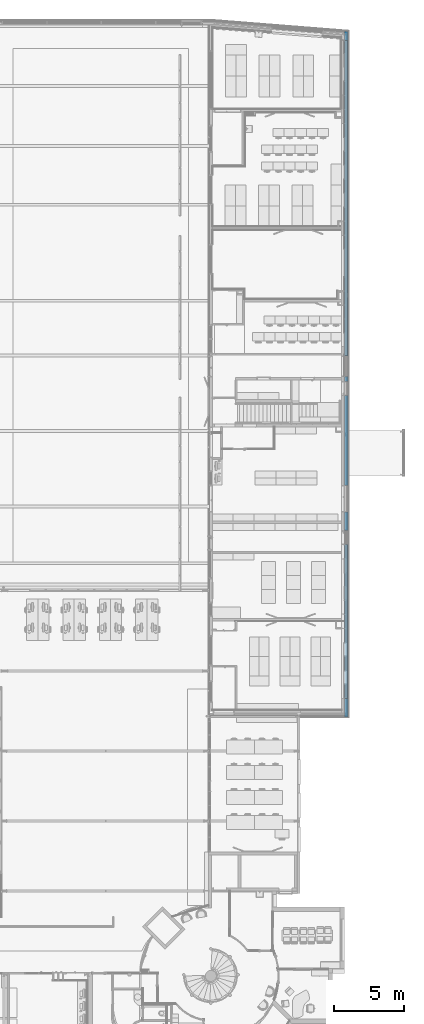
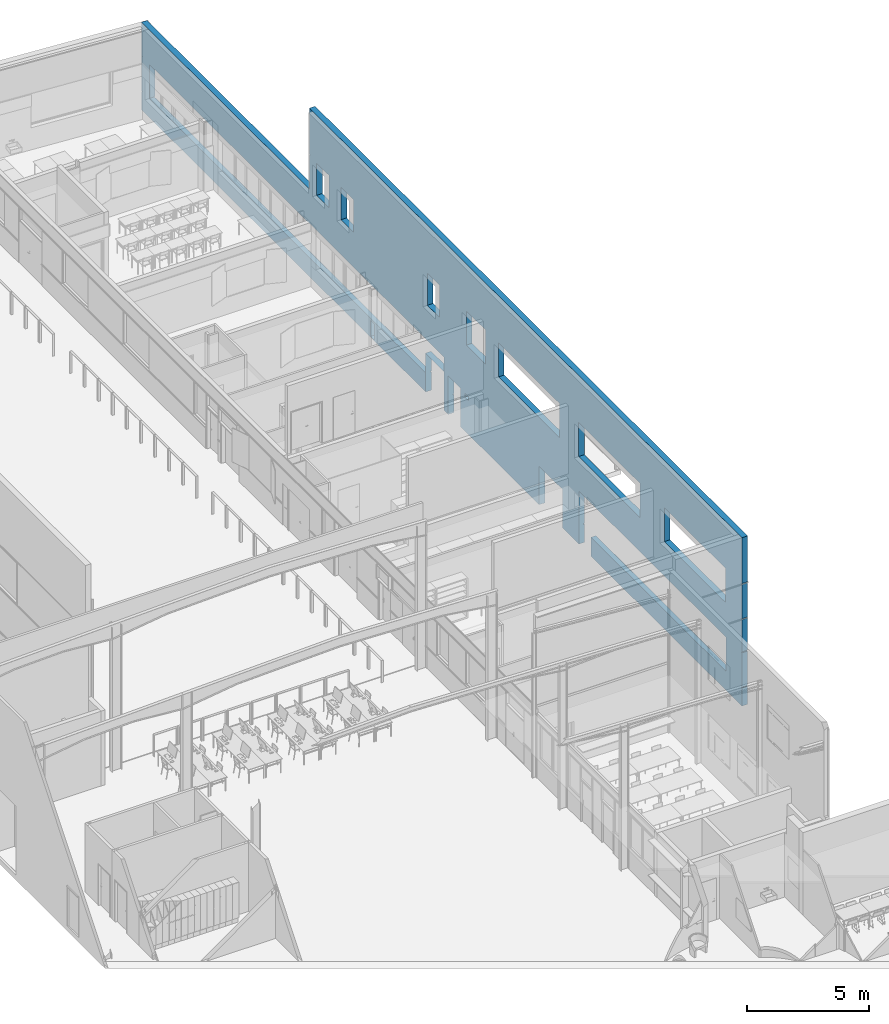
# One storey, part 103 of 137: 1 wall.
"""IFC2X3 building model written with IfcOpenShell, lengths in centimetres."""

from ifc_helpers import new_model, entity, si_unit, converted_unit, derived_unit, direction, frame, origin, place, context, subcontext, project, spatial, faceted_brep, material, material_list, type_object, element, save


model = new_model("IFC2X3")

# Units and contexts
model_context = context("Model", 3, precision=0.001, world=origin(), true_north=direction((6.12303176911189e-17, 1.0)))
body_context = subcontext(model_context, "Body", "Model", "MODEL_VIEW")
ifc_project = project(units=[si_unit("LENGTHUNIT", "METRE", prefix="CENTI"), si_unit("AREAUNIT", "SQUARE_METRE"), si_unit("VOLUMEUNIT", "CUBIC_METRE"), converted_unit("PLANEANGLEUNIT", "DEGREE", entity("IfcRatioMeasure", 0.0174532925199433), si_unit("PLANEANGLEUNIT", "RADIAN"), dimensions=[0, 0, 0, 0, 0, 0, 0]), si_unit("MASSUNIT", "GRAM", prefix="KILO"), si_unit("TIMEUNIT", "SECOND"), si_unit("FREQUENCYUNIT", "HERTZ"), si_unit("THERMODYNAMICTEMPERATUREUNIT", "DEGREE_CELSIUS"), derived_unit("THERMALTRANSMITTANCEUNIT", [(si_unit("MASSUNIT", "GRAM", prefix="KILO"), 1), (si_unit("THERMODYNAMICTEMPERATUREUNIT", "KELVIN"), -1), (si_unit("TIMEUNIT", "SECOND"), -3)]), derived_unit("VOLUMETRICFLOWRATEUNIT", [(si_unit("LENGTHUNIT", "METRE"), 3), (si_unit("TIMEUNIT", "SECOND"), -1)]), si_unit("ELECTRICCURRENTUNIT", "AMPERE"), si_unit("ELECTRICVOLTAGEUNIT", "VOLT"), si_unit("POWERUNIT", "WATT"), si_unit("FORCEUNIT", "NEWTON", prefix="KILO"), si_unit("ILLUMINANCEUNIT", "LUX"), si_unit("LUMINOUSFLUXUNIT", "LUMEN"), si_unit("LUMINOUSINTENSITYUNIT", "CANDELA"), derived_unit("USERDEFINED", [(si_unit("MASSUNIT", "GRAM", prefix="KILO"), -1), (si_unit("LENGTHUNIT", "METRE"), -2), (si_unit("TIMEUNIT", "SECOND"), 3), (si_unit("LUMINOUSFLUXUNIT", "LUMEN"), 1)]), derived_unit("LINEARVELOCITYUNIT", [(si_unit("LENGTHUNIT", "METRE"), 1), (si_unit("TIMEUNIT", "SECOND"), -1)]), si_unit("PRESSUREUNIT", "PASCAL"), derived_unit("USERDEFINED", [(si_unit("LENGTHUNIT", "METRE"), -2), (si_unit("MASSUNIT", "GRAM", prefix="KILO"), 1), (si_unit("TIMEUNIT", "SECOND"), -2)])], contexts=[model_context])

# Site, building, storey
site_placement = place(None, frame((8.62739174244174, -249.285249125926, 0.0)))
site = spatial("IfcSite", under=ifc_project, at=site_placement, Name="Default", CompositionType="ELEMENT")
building_placement = place(site_placement, origin())
building = spatial("IfcBuilding", under=site, at=building_placement, CompositionType="ELEMENT")
storey_placement = place(building_placement, origin())
storey = spatial("IfcBuildingStorey", under=building, at=storey_placement, Name="RDC", CompositionType="ELEMENT", Elevation=-8.82465566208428e-11)

# Wall
ifc_material_1 = material(Name="Tôle/Doublage(PROJET)")
ifc_material_2 = material(Name="Laine minérale")
ifc_material_list = material_list([ifc_material_1, ifc_material_2])
wall_type = type_object("IfcWallType", Name="Mur de base:MET PROJET 4 + ISO 23", PredefinedType="NOTDEFINED")
wall_placement = place(storey_placement, frame((4012.40482781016, 2607.98020806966, 15.0), z_axis=(0.0, 0.0, 1.0), x_axis=(0.0, 1.0, 0.0)))
element("IfcWall", 1, at=wall_placement, inside=storey, type_object=wall_type, material=ifc_material_list, Name="Mur de base:MET PROJET 4 + ISO 23", ObjectType="Mur de base:MET PROJET 4 + ISO 23", context=body_context, shape_type="Brep", body=[
    faceted_brep([(0.0, -13.4999999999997, 270.0), (4905.23085879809, -13.4999999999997, 270.0), (4905.23085879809, -13.4999999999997, 435.899999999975), (4905.23085879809, -13.4999999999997, 436.0), (4868.69741468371, -13.4999999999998, 436.0), (3534.0, -13.4999999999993, 436.0), (3534.0, -13.4999999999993, 606.0), (2250.0, -13.4999999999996, 606.0), (2250.0, -13.4999999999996, 436.0), (2095.0, -13.4999999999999, 436.0), (2095.0, -13.4999999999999, 606.0), (1988.60249267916, -13.5, 606.0), (1988.60249267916, -13.5, 436.0), (1488.60249267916, -13.4999999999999, 436.0), (1488.60249267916, -13.4999999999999, 606.0), (1333.70498529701, -13.4999999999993, 606.0), (1333.70498529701, -13.4999999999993, 436.0), (833.70498529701, -13.5000000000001, 436.0), (833.704985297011, -13.5000000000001, 606.0), (633.70498529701, -13.4999999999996, 606.0), (633.70498529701, -13.4999999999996, 436.0), (133.704985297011, -13.4999999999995, 436.0), (133.704985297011, -13.4999999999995, 606.0), (0.0, -13.4999999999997, 606.0), (0.0, -13.4999999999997, 436.0), (4.0, -13.4999999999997, 436.0), (4.0, -13.4999999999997, 431.0), (0.0, -13.4999999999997, 431.0), (3475.0117757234, -13.4999999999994, 601.011775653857), (3475.0117757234, -13.4999999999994, 440.011775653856), (3375.0117757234, -13.4999999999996, 440.011775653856), (3375.0117757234, -13.4999999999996, 601.011775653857), (2570.0, -13.5, 601.511775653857), (2570.0, -13.5, 440.511775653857), (2470.0, -13.5000000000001, 440.511775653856), (2470.0, -13.5000000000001, 601.511775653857), (3275.0117757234, -13.4999999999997, 601.011775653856), (3275.0117757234, -13.4999999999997, 440.011775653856), (3175.0117757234, -13.4999999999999, 440.011775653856), (3175.0117757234, -13.4999999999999, 601.011775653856), (4903.35329153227, 13.5000000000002, 270.0), (4903.35329153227, 13.5000000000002, 265.0), (4907.3657765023, 13.5000000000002, 265.0), (4907.3657765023, 13.5000000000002, 95.0), (4903.35329153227, 13.5000000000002, 95.0), (4903.35329153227, 13.5000000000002, 90.0), (4907.36577650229, 13.5000000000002, 90.0), (4907.36577650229, 13.5000000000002, 0.0), (4880.28150295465, 13.5000000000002, 0.0), (2584.0, 13.5, 0.0), (2584.0, 13.5, 192.0), (2435.0, 13.5000000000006, 192.0), (2435.0, 13.5000000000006, 0.0), (2399.0, 13.5000000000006, 0.0), (2399.0, 13.5000000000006, 192.499999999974), (2299.0, 13.5000000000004, 192.499999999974), (2299.0, 13.5000000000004, 0.0), (1656.20498529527, 13.5000000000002, 0.0), (1656.20498529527, 13.5000000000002, 192.0), (1467.20498529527, 13.4999999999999, 192.0), (1467.20498529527, 13.4999999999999, 0.0), (1332.204985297, 13.5000000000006, 0.0), (1332.204985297, 13.5000000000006, 192.499999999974), (1331.20498529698, 13.5000000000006, 192.499999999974), (1331.20498529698, 13.5000000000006, 265.0), (131.204985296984, 13.5000000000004, 265.0), (131.204985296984, 13.5000000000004, 95.0), (1232.204985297, 13.5000000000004, 95.0), (1232.204985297, 13.5000000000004, 0.0), (0.0, 13.5000000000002, 0.0), (0.0, 13.5000000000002, 0.0881867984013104), (0.0, 13.5000000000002, 90.0), (4.0, 13.5000000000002, 90.0), (4.0, 13.5000000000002, 95.0), (0.0, 13.5000000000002, 95.0), (0.0, 13.5000000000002, 265.0), (4.0, 13.5000000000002, 265.0), (4.0, 13.5000000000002, 270.0), (0.0, 13.5000000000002, 270.0), (0.0, 13.5000000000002, 431.0), (4.0, 13.5000000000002, 431.0), (4.0, 13.5000000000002, 436.0), (0.0, 13.5000000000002, 436.0), (0.0, 13.5000000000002, 606.0), (4.0, 13.5000000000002, 606.0), (4.0, 13.5000000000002, 611.0), (0.0, 13.5000000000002, 611.0), (0.0, 13.5000000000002, 839.900000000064), (27.0, 13.5000000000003, 839.900000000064), (58.9, 13.5000000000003, 839.900000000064), (58.8999999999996, 13.5000000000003, 835.100000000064), (57.5000000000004, 13.5000000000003, 835.100000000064), (57.4999999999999, 13.5000000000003, 835.0), (59.0, 13.5000000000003, 835.0), (59.0, 13.5000000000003, 840.0), (3475.0, 13.5000000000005, 840.0), (3475.0, 13.5000000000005, 835.0), (3476.50000006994, 13.5000000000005, 835.0), (3476.50000006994, 13.5000000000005, 835.100000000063), (3475.10000006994, 13.5000000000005, 835.100000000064), (3475.10000006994, 13.5000000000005, 839.900000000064), (3507.0, 13.5000000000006, 839.900000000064), (3534.0, 13.5000000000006, 839.900000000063), (3534.0, 13.5000000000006, 611.0), (3530.0, 13.5000000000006, 611.0), (3530.0, 13.5000000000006, 606.0), (3534.0, 13.5000000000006, 606.0), (3534.0, 13.5000000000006, 436.0), (4848.18162319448, 13.5000000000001, 436.0), (4880.30717049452, 13.5000000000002, 436.0), (4907.3657765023, 13.5000000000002, 436.0), (4907.3657765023, 13.5000000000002, 435.899999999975), (4907.3657765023, 13.5000000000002, 270.0), (4841.40916101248, 13.5000000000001, 95.0), (4841.40916101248, 13.5000000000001, 265.0), (2434.0, 13.5000000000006, 265.0), (2434.0, 13.5000000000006, 193.0), (2585.0, 13.5, 193.0), (2585.0, 13.5, 95.0), (2250.0, 13.5000000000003, 436.0), (2250.0, 13.5000000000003, 606.0), (2095.0, 13.5000000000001, 606.0), (2095.0, 13.5000000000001, 436.0), (1988.60249267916, 13.4999999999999, 436.0), (1988.60249267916, 13.4999999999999, 606.0), (1488.60249267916, 13.5, 606.0), (1488.60249267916, 13.5, 436.0), (1333.70498529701, 13.5000000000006, 436.0), (1333.70498529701, 13.5000000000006, 606.0), (833.704985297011, 13.4999999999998, 606.0), (833.704985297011, 13.4999999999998, 436.0), (633.70498529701, 13.5000000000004, 436.0), (633.70498529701, 13.5000000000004, 606.0), (133.704985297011, 13.5000000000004, 606.0), (133.704985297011, 13.5000000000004, 436.0), (2263.48822441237, 13.5000000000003, 168.988224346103), (2263.48822441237, 13.5000000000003, 188.988224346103), (2232.51572422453, 13.5000000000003, 188.988224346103), (2232.51572422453, 13.5000000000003, 168.988224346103), (3475.0117757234, 13.5000000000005, 440.011775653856), (3475.0117757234, 13.5000000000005, 601.011775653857), (3375.0117757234, 13.5000000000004, 601.011775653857), (3375.0117757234, 13.5000000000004, 440.011775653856), (3033.0, 13.4999999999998, 4.84175341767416), (3033.0, 13.4999999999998, 85.2074270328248), (3002.0, 13.5000000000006, 85.2074270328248), (3002.0, 13.5000000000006, 4.84175341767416), (2570.0, 13.5, 440.511775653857), (2570.0, 13.5, 601.511775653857), (2470.0, 13.4999999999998, 601.511775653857), (2470.0, 13.4999999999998, 440.511775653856), (3275.0117757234, 13.5000000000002, 440.011775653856), (3275.0117757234, 13.5000000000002, 601.011775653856), (3175.0117757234, 13.5000000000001, 601.011775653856), (3175.0117757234, 13.5000000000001, 440.011775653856), (3475.0, -13.4999999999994, 840.0), (59.0, -13.4999999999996, 840.0), (1467.20498529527, -13.5, 0.0), (1332.204985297, -13.4999999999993, 0.0), (4.0, -9.49999999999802, 611.0), (4.0, -9.49999999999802, 606.0), (133.704985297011, -9.49999999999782, 606.0), (633.70498529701, -9.49999999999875, 606.0), (833.704985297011, -9.49999999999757, 606.0), (1333.70498529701, -9.49999999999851, 606.0), (1488.60249267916, -9.49999999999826, 606.0), (1988.60249267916, -9.49999999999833, 606.0), (2095.0, -9.49999999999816, 606.0), (2250.0, -9.49999999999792, 606.0), (3530.0, -9.49999999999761, 606.0), (3530.0, -9.49999999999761, 611.0), (4.0, -9.49999999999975, 270.0), (4.0, -9.49999999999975, 265.0), (131.204985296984, -9.49999999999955, 265.0), (1331.20498529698, -9.49999999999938, 265.0), (2434.0, -9.49999999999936, 265.0), (4841.40916101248, -9.49999999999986, 265.0), (4901.5346579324, -9.49999999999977, 265.0), (4901.5346579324, -9.49999999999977, 270.0), (1232.204985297, -9.49999999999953, 95.0), (131.204985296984, -9.49999999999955, 95.0), (4.0, -9.49999999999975, 95.0), (4.0, -9.49999999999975, 90.0), (1232.204985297, -9.49999999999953, 90.0), (1232.204985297, -13.4999999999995, 90.0), (0.0, -13.4999999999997, 90.0), (131.204985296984, -13.4999999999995, 95.0), (0.0, -13.4999999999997, 95.0), (4901.5346579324, -9.49999999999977, 95.0), (4901.5346579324, -9.49999999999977, 90.0), (0.0, -13.4999999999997, 265.0), (131.204985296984, -13.4999999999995, 265.0), (3534.0, -13.4999999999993, 611.0), (0.0, -13.4999999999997, 611.0), (4841.40916101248, -13.4999999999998, 95.0), (4841.40916101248, -13.4999999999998, 265.0), (4841.40916101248, -9.49999999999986, 95.0), (2434.0, -13.4999999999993, 193.0), (2434.0, -13.4999999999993, 265.0), (2585.0, -13.4999999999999, 193.0), (2585.0, -13.4999999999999, 95.0), (2585.0, -9.49999999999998, 95.0), (1331.20498529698, -13.4999999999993, 192.499999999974), (1331.20498529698, -13.4999999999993, 265.0), (2435.0, -13.4999999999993, 192.0), (2435.0, -13.4999999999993, 95.0), (2435.0, -9.49999999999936, 95.0), (2435.0, -9.49999999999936, 90.0), (2435.0, -13.4999999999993, 90.0), (2435.0, -13.4999999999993, 0.0), (2584.0, -13.4999999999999, 192.0), (2584.0, -13.4999999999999, 0.0), (2584.0, -13.4999999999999, 90.0), (2584.0, -9.49999999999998, 90.0), (2584.0, -9.49999999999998, 95.0), (2584.0, -13.4999999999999, 95.0), (2399.0, -13.4999999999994, 192.499999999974), (2399.0, -13.4999999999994, 0.0), (2399.0, -13.4999999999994, 90.0), (2399.0, -9.49999999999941, 90.0), (2399.0, -9.49999999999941, 95.0), (2399.0, -13.4999999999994, 95.0), (2299.0, -13.4999999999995, 192.499999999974), (2299.0, -13.4999999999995, 95.0), (2299.0, -9.49999999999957, 95.0), (2299.0, -9.49999999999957, 90.0), (2299.0, -13.4999999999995, 90.0), (2299.0, -13.4999999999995, 0.0), (1656.20498529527, -13.4999999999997, 192.0), (1656.20498529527, -13.4999999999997, 0.0), (1656.20498529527, -13.4999999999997, 90.0), (1656.20498529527, -9.49999999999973, 90.0), (1656.20498529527, -9.49999999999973, 95.0), (1656.20498529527, -13.4999999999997, 95.0), (1467.20498529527, -13.5, 192.0), (1467.20498529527, -13.5, 95.0), (1467.20498529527, -9.50000000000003, 95.0), (1467.20498529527, -9.50000000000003, 90.0), (1467.20498529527, -13.4999999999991, 90.0), (1232.204985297, -13.4999999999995, 0.0), (1332.204985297, -13.4999999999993, 192.499999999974), (1332.204985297, -13.4999999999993, 90.0), (1332.204985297, -9.49999999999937, 90.0), (1332.204985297, -9.49999999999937, 95.0), (1332.204985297, -13.4999999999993, 95.0), (2263.48822441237, -13.4999999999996, 168.988224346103), (2263.48822441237, -13.4999999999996, 188.988224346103), (2232.51572422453, -13.4999999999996, 168.988224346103), (2232.51572422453, -13.4999999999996, 188.988224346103), (4905.23085879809, -13.4999999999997, 90.0), (3033.0, -13.5000000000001, 4.84175341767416), (3033.0, -13.5000000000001, 85.2074270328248), (3002.0, -13.4999999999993, 4.84175341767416), (3002.0, -13.4999999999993, 85.2074270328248), (4905.23085879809, -13.4999999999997, 265.0), (4905.23085879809, -13.4999999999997, 95.0), (3475.0, -13.5000000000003, 835.0), (3476.50000006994, -13.4999999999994, 835.0), (3476.50000006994, -13.4999999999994, 835.100000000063), (3475.10000006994, -13.4999999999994, 835.100000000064), (3475.10000006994, -13.4999999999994, 839.900000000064), (3534.0, -13.4999999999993, 839.900000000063), (59.0, -13.5000000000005, 835.0), (57.4999999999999, -13.5000000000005, 835.0), (57.4999999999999, -13.5000000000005, 835.100000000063), (58.9, -13.5000000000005, 835.100000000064), (58.8999999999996, -13.5000000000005, 839.900000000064), (0.0, -13.4999999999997, 839.900000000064), (4905.23085879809, -13.4999999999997, 0.0), (0.0, -13.4999999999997, 0.0)], [[[0, 1, 2, 3, 4, 5, 6, 7, 8, 9, 10, 11, 12, 13, 14, 15, 16, 17, 18, 19, 20, 21, 22, 23, 24, 25, 26, 27], [28, 29, 30, 31], [32, 33, 34, 35], [36, 37, 38, 39]], [[40, 41, 42, 43, 44, 45, 46, 47, 48, 49, 50, 51, 52, 53, 54, 55, 56, 57, 58, 59, 60, 61, 62, 63, 64, 65, 66, 67, 68, 69, 70, 71, 72, 73, 74, 75, 76, 77, 78, 79, 80, 81, 82, 83, 84, 85, 86, 87, 88, 89, 90, 91, 92, 93, 94, 95, 96, 97, 98, 99, 100, 101, 102, 103, 104, 105, 106, 107, 108, 109, 110, 111, 112], [113, 114, 115, 116, 117, 118], [119, 120, 121, 122], [123, 124, 125, 126], [127, 128, 129, 130], [131, 132, 133, 134], [135, 136, 137, 138], [139, 140, 141, 142], [143, 144, 145, 146], [147, 148, 149, 150], [151, 152, 153, 154]], [[155, 95, 94, 156]], [[107, 5, 4, 3, 110, 109, 108]], [[60, 157, 158, 61]], [[159, 160, 161, 162, 163, 164, 165, 166, 167, 168, 169, 170]], [[171, 172, 173, 174, 175, 176, 177, 178]], [[179, 180, 181, 182, 183]], [[184, 183, 182, 72, 71, 185]], [[180, 186, 187, 74, 73, 181]], [[178, 177, 41, 40]], [[188, 189, 45, 44]], [[170, 169, 105, 104]], [[172, 171, 77, 76]], [[172, 76, 75, 190, 191, 173]], [[171, 178, 40, 112, 1, 0, 78, 77]], [[160, 159, 85, 84]], [[160, 84, 83, 23, 22, 161]], [[159, 170, 104, 103, 192, 193, 86, 85]], [[194, 195, 176, 114, 113, 196]], [[115, 114, 176, 175]], [[197, 116, 115, 175, 198]], [[116, 197, 199, 117]], [[117, 199, 200, 201, 118]], [[113, 118, 201, 196]], [[174, 64, 63, 202, 203]], [[65, 64, 174, 173]], [[191, 186, 180, 66, 65, 173]], [[66, 180, 179, 67]], [[119, 8, 7, 168, 120]], [[121, 120, 168, 167]], [[9, 122, 121, 167, 10]], [[8, 119, 122, 9]], [[123, 12, 11, 166, 124]], [[125, 124, 166, 165]], [[13, 126, 125, 165, 14]], [[12, 123, 126, 13]], [[127, 16, 15, 164, 128]], [[129, 128, 164, 163]], [[17, 130, 129, 163, 18]], [[16, 127, 130, 17]], [[131, 20, 19, 162, 132]], [[133, 132, 162, 161]], [[21, 134, 133, 161, 22]], [[20, 131, 134, 21]], [[51, 204, 205, 206, 207, 208, 209, 52]], [[204, 51, 50, 210]], [[210, 50, 49, 211, 212, 213, 214, 215]], [[216, 54, 53, 217, 218, 219, 220, 221]], [[54, 216, 222, 55]], [[55, 222, 223, 224, 225, 226, 227, 56]], [[228, 58, 57, 229, 230, 231, 232, 233]], [[58, 228, 234, 59]], [[59, 234, 235, 236, 237, 238, 157, 60]], [[68, 67, 179, 183, 184, 239]], [[62, 240, 202, 63]], [[240, 62, 61, 158, 241, 242, 243, 244]], [[245, 246, 136, 135]], [[247, 245, 135, 138]], [[248, 247, 138, 137]], [[246, 248, 137, 136]], [[189, 188, 196, 201, 214, 213]], [[45, 189, 213, 212, 249, 46]], [[214, 201, 200, 215]], [[206, 220, 219, 207]], [[207, 219, 218, 208]], [[220, 206, 205, 221]], [[224, 232, 231, 225]], [[225, 231, 230, 226]], [[232, 224, 223, 233]], [[236, 243, 242, 237]], [[237, 242, 241, 238]], [[243, 236, 235, 244]], [[190, 75, 74, 187]], [[181, 73, 72, 182]], [[29, 28, 140, 139]], [[30, 29, 139, 142]], [[31, 30, 142, 141]], [[28, 31, 141, 140]], [[250, 251, 144, 143]], [[252, 250, 143, 146]], [[253, 252, 146, 145]], [[251, 253, 145, 144]], [[5, 107, 106, 6]], [[33, 32, 148, 147]], [[34, 33, 147, 150]], [[35, 34, 150, 149]], [[32, 35, 149, 148]], [[254, 255, 43, 42]], [[81, 25, 24, 82]], [[26, 80, 79, 27]], [[25, 81, 80, 26]], [[37, 36, 152, 151]], [[38, 37, 151, 154]], [[39, 38, 154, 153]], [[36, 39, 153, 152]], [[96, 256, 257, 97]], [[256, 96, 95, 155]], [[97, 257, 258, 98]], [[98, 258, 259, 99]], [[99, 259, 260, 100]], [[100, 260, 261, 102, 101]], [[93, 262, 156, 94]], [[262, 93, 92, 263]], [[263, 92, 91, 264]], [[264, 91, 90, 265]], [[265, 90, 89, 266]], [[266, 89, 88, 87, 267]], [[110, 3, 2, 1, 112, 111]], [[268, 47, 46, 249]], [[192, 103, 102, 261]], [[23, 83, 82, 24]], [[69, 269, 185, 71, 70]], [[78, 0, 27, 79]], [[86, 193, 267, 87]], [[188, 44, 43, 255, 194, 196]], [[169, 168, 7, 6, 106, 105]], [[167, 166, 11, 10]], [[165, 164, 15, 14]], [[19, 18, 163, 162]], [[177, 176, 195, 254, 42, 41]], [[175, 174, 203, 198]], [[239, 269, 69, 68]], [[229, 57, 56, 227]], [[217, 53, 52, 209]], [[268, 211, 49, 48, 47]], [[193, 192, 261, 260, 259, 258, 257, 256, 155, 156, 262, 263, 264, 265, 266, 267]], [[191, 190, 187, 186]], [[239, 184, 185, 269]], [[157, 238, 241, 158]], [[230, 229, 227, 226]], [[198, 203, 202, 240, 244, 235, 234, 228, 233, 223, 222, 216, 221, 205, 204, 210, 215, 200, 199, 197], [246, 245, 247, 248]], [[209, 208, 218, 217]], [[212, 211, 268, 249], [251, 250, 252, 253]], [[254, 195, 194, 255]]]),
])

save(model, "model.ifc")
